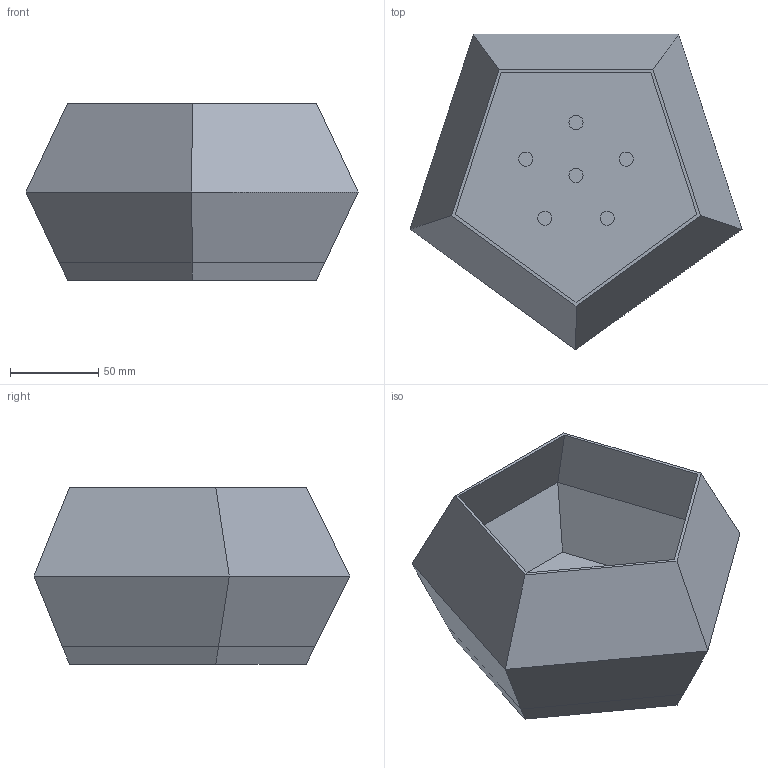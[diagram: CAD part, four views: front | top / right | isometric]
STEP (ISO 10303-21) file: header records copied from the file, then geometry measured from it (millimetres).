
FILE_DESCRIPTION(/* description */ (''),/* implementation_level */ '2;1');
FILE_NAME(/* name */ 'D:/artecitos/NorMaker/Cults/Maceta pentagonal/Pentagonal planter.step',/* time_stamp */ '2020-10-23T20:55:17+02:00',/* author */ (''),/* organization */ (''),/* preprocessor_version */ 'ST-DEVELOPER v18.1',/* originating_system */ 'Autodesk Translation Framework v9.3.0.1241',/* authorisation */ '');
FILE_SCHEMA (('AUTOMOTIVE_DESIGN { 1 0 10303 214 3 1 1 }'));
Length unit declared in the file: millimetre
Products named in the file (1): Maceta pentagonal
Bounding box: 188.09 x 178.89 x 100 mm (x, y, z)
Volume: 167820 mm3; surface area: 166671.4 mm2
Topology: 2 solids, 2 shells, 92 faces, 218 edges, 142 vertices
Faces by surface type: plane 86, cylinder 6
Full cylindrical faces by diameter (mm): 8 x6
Entity records: 2657 total; most frequent: CARTESIAN_POINT 453, ORIENTED_EDGE 436, DIRECTION 416, EDGE_CURVE 218, LINE 206, VECTOR 206, VERTEX_POINT 142, EDGE_LOOP 116
